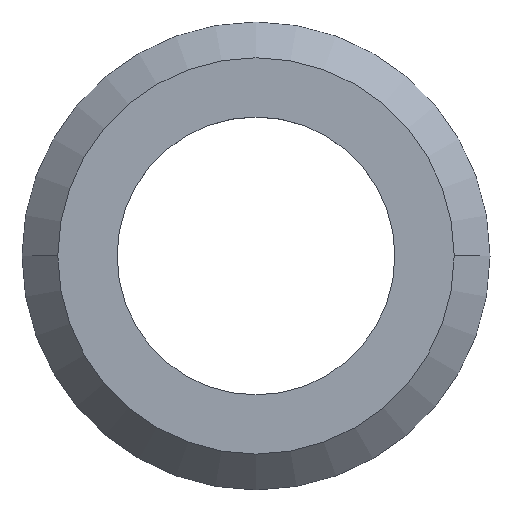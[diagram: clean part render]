
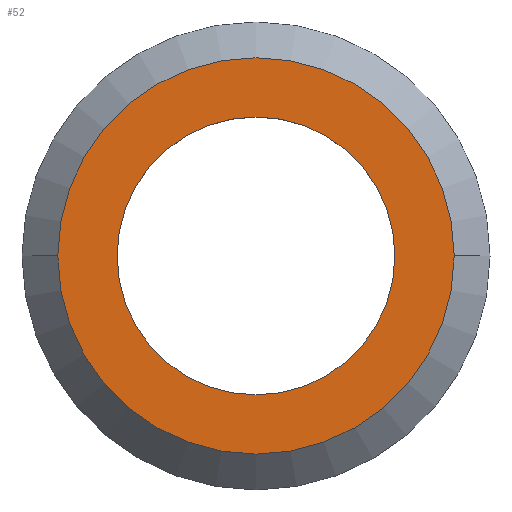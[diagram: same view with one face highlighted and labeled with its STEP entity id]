
A CAD part, top view. The second image highlights one B-rep face of the part: STEP entity #52.
In plain terms, the highlighted planar face has unit normal (0, 0, 1).
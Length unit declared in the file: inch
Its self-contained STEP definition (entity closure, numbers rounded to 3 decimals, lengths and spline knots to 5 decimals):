
#32 = CIRCLE ( 'NONE', #63, 0.65827 ) ;
#44 = DIRECTION ( 'NONE',  ( 0., 0., -1. ) ) ;
#52 = ADVANCED_FACE ( 'NONE', ( #329, #291 ), #82, .T. ) ;
#55 = DIRECTION ( 'NONE',  ( 1., 0., 0. ) ) ;
#63 = AXIS2_PLACEMENT_3D ( 'NONE', #263, #408, #453 ) ;
#65 = VERTEX_POINT ( 'NONE', #179 ) ;
#82 = PLANE ( 'NONE',  #109 ) ;
#90 = EDGE_CURVE ( 'NONE', #397, #65, #306, .T. ) ;
#102 = DIRECTION ( 'NONE',  ( -1., 0., 0. ) ) ;
#107 = VERTEX_POINT ( 'NONE', #119 ) ;
#109 = AXIS2_PLACEMENT_3D ( 'NONE', #146, #370, #55 ) ;
#115 = CIRCLE ( 'NONE', #346, 0.65827 ) ;
#119 = CARTESIAN_POINT ( 'NONE',  ( 0.65827, 0., 0. ) ) ;
#146 = CARTESIAN_POINT ( 'NONE',  ( 0., 0.65827, 0. ) ) ;
#160 = EDGE_CURVE ( 'NONE', #107, #393, #115, .T. ) ;
#173 = CIRCLE ( 'NONE', #443, 0.46142 ) ;
#179 = CARTESIAN_POINT ( 'NONE',  ( -0.46142, 0., 0. ) ) ;
#190 = CARTESIAN_POINT ( 'NONE',  ( 0., 0., 0. ) ) ;
#232 = ORIENTED_EDGE ( 'NONE', *, *, #90, .T. ) ;
#236 = DIRECTION ( 'NONE',  ( 0., 0., -1. ) ) ;
#247 = CARTESIAN_POINT ( 'NONE',  ( 0., 0., 0. ) ) ;
#248 = EDGE_CURVE ( 'NONE', #393, #107, #32, .T. ) ;
#263 = CARTESIAN_POINT ( 'NONE',  ( 0., 0., 0. ) ) ;
#291 = FACE_OUTER_BOUND ( 'NONE', #359, .T. ) ;
#306 = CIRCLE ( 'NONE', #338, 0.46142 ) ;
#317 = EDGE_LOOP ( 'NONE', ( #352, #232 ) ) ;
#325 = DIRECTION ( 'NONE',  ( -1., 0., 0. ) ) ;
#328 = EDGE_CURVE ( 'NONE', #65, #397, #173, .T. ) ;
#329 = FACE_BOUND ( 'NONE', #317, .T. ) ;
#336 = DIRECTION ( 'NONE',  ( -1., 0., 0. ) ) ;
#338 = AXIS2_PLACEMENT_3D ( 'NONE', #365, #44, #325 ) ;
#346 = AXIS2_PLACEMENT_3D ( 'NONE', #190, #236, #336 ) ;
#350 = CARTESIAN_POINT ( 'NONE',  ( 0.46142, 0., 0. ) ) ;
#352 = ORIENTED_EDGE ( 'NONE', *, *, #328, .T. ) ;
#359 = EDGE_LOOP ( 'NONE', ( #455, #449 ) ) ;
#365 = CARTESIAN_POINT ( 'NONE',  ( 0., 0., 0. ) ) ;
#370 = DIRECTION ( 'NONE',  ( 0., 0., 1. ) ) ;
#393 = VERTEX_POINT ( 'NONE', #429 ) ;
#397 = VERTEX_POINT ( 'NONE', #350 ) ;
#408 = DIRECTION ( 'NONE',  ( 0., 0., -1. ) ) ;
#419 = DIRECTION ( 'NONE',  ( 0., 0., -1. ) ) ;
#429 = CARTESIAN_POINT ( 'NONE',  ( -0.65827, 0., 0. ) ) ;
#443 = AXIS2_PLACEMENT_3D ( 'NONE', #247, #419, #102 ) ;
#449 = ORIENTED_EDGE ( 'NONE', *, *, #160, .F. ) ;
#453 = DIRECTION ( 'NONE',  ( -1., 0., 0. ) ) ;
#455 = ORIENTED_EDGE ( 'NONE', *, *, #248, .F. ) ;
